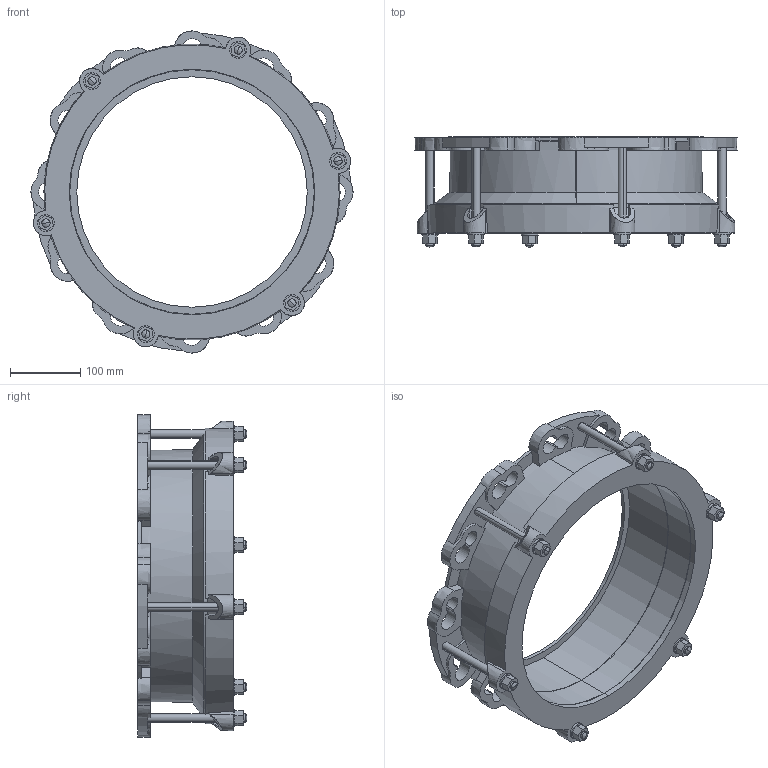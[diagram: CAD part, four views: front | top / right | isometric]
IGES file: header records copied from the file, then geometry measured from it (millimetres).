
Start section:  PTC IGES file: maxidaptor_315-349.igs
Global section: file name: maxidaptor_315-349.igs; native system: Creo Parametric by PTC Inc.; preprocessor: 2016130; author: MReader; organization: Unknown; date: 20181009.113055; units: millimetre
Bounding box: 459.97 x 157 x 460 mm (x, y, z)
Surface area: 807322.5 mm2 (no closed solid volume)
Topology: 0 solids, 0 shells, 339 faces, 1848 edges, 1836 vertices
Faces by surface type: revolution 198, bspline 141
